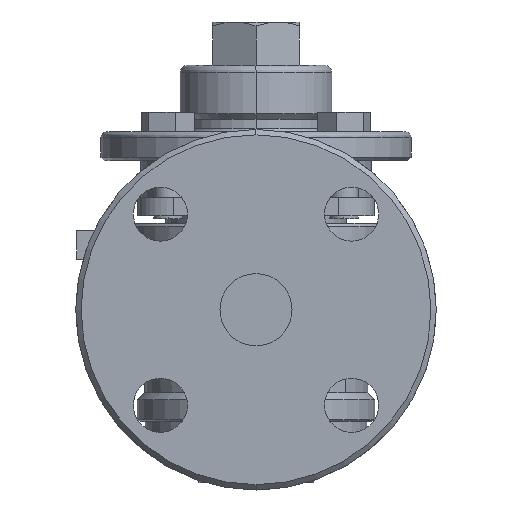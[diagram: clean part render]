
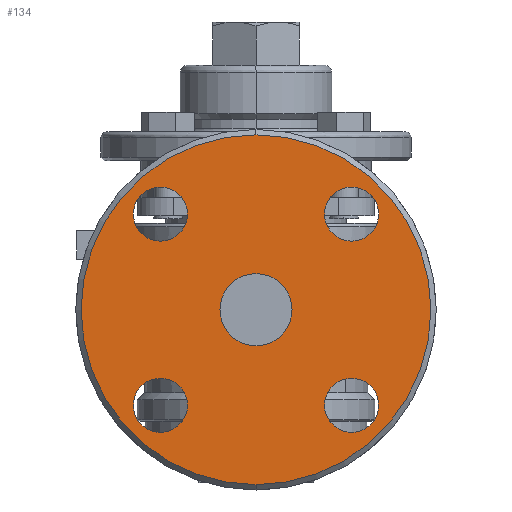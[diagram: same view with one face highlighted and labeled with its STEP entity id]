
A CAD part, left-side view. The second image highlights one B-rep face of the part: STEP entity #134.
In plain terms, the highlighted planar face has unit normal (-1, 0, 0).
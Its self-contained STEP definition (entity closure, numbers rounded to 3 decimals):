
#134=ADVANCED_FACE('',(#1209,#1210,#1211,#1212,#1213,#1214),#1208,.F.);
#1208=PLANE('',#2806);
#1209=FACE_OUTER_BOUND('',#2807,.T.);
#1210=FACE_BOUND('',#2808,.T.);
#1211=FACE_BOUND('',#2809,.T.);
#1212=FACE_BOUND('',#2810,.T.);
#1213=FACE_BOUND('',#2811,.T.);
#1214=FACE_BOUND('',#2812,.T.);
#2803=CARTESIAN_POINT('',(-80.,-94.019,58.508));
#2804=DIRECTION('',(1.,0.,0.));
#2805=DIRECTION('',(0.,0.,-1.));
#2806=AXIS2_PLACEMENT_3D('',#2803,#2804,#2805);
#2807=EDGE_LOOP('',(#4264,#4265));
#2808=EDGE_LOOP('',(#4266,#4267));
#2809=EDGE_LOOP('',(#4268,#4269));
#2810=EDGE_LOOP('',(#4270,#4271));
#2811=EDGE_LOOP('',(#4272,#4273));
#2812=EDGE_LOOP('',(#4274,#4275));
#4264=ORIENTED_EDGE('',*,*,#5091,.T.);
#4265=ORIENTED_EDGE('',*,*,#5092,.T.);
#4266=ORIENTED_EDGE('',*,*,#5093,.T.);
#4267=ORIENTED_EDGE('',*,*,#5094,.T.);
#4268=ORIENTED_EDGE('',*,*,#5095,.T.);
#4269=ORIENTED_EDGE('',*,*,#5096,.T.);
#4270=ORIENTED_EDGE('',*,*,#5097,.T.);
#4271=ORIENTED_EDGE('',*,*,#5098,.T.);
#4272=ORIENTED_EDGE('',*,*,#5099,.F.);
#4273=ORIENTED_EDGE('',*,*,#5100,.F.);
#4274=ORIENTED_EDGE('',*,*,#5101,.T.);
#4275=ORIENTED_EDGE('',*,*,#5102,.T.);
#5091=EDGE_CURVE('',#7511,#7512,#7513,.T.);
#5092=EDGE_CURVE('',#7512,#7511,#7519,.T.);
#5093=EDGE_CURVE('',#7525,#7526,#7527,.T.);
#5094=EDGE_CURVE('',#7526,#7525,#7533,.T.);
#5095=EDGE_CURVE('',#7539,#7540,#7541,.T.);
#5096=EDGE_CURVE('',#7540,#7539,#7547,.T.);
#5097=EDGE_CURVE('',#7553,#7554,#7555,.T.);
#5098=EDGE_CURVE('',#7554,#7553,#7561,.T.);
#5099=EDGE_CURVE('',#7567,#7568,#7569,.T.);
#5100=EDGE_CURVE('',#7568,#7567,#7575,.T.);
#5101=EDGE_CURVE('',#7581,#7582,#7583,.T.);
#5102=EDGE_CURVE('',#7582,#7581,#7589,.T.);
#7511=VERTEX_POINT('',#10048);
#7512=VERTEX_POINT('',#10049);
#7513=CIRCLE('',#10053,48.508);
#7519=CIRCLE('',#10057,48.508);
#7525=VERTEX_POINT('',#10058);
#7526=VERTEX_POINT('',#10059);
#7527=CIRCLE('',#10063,7.5);
#7533=CIRCLE('',#10067,7.5);
#7539=VERTEX_POINT('',#10068);
#7540=VERTEX_POINT('',#10069);
#7541=CIRCLE('',#10073,7.5);
#7547=CIRCLE('',#10077,7.5);
#7553=VERTEX_POINT('',#10078);
#7554=VERTEX_POINT('',#10079);
#7555=CIRCLE('',#10083,7.5);
#7561=CIRCLE('',#10087,7.5);
#7567=VERTEX_POINT('',#10088);
#7568=VERTEX_POINT('',#10089);
#7569=CIRCLE('',#10093,10.);
#7575=CIRCLE('',#10097,10.);
#7581=VERTEX_POINT('',#10098);
#7582=VERTEX_POINT('',#10099);
#7583=CIRCLE('',#10103,7.5);
#7589=CIRCLE('',#10107,7.5);
#10048=CARTESIAN_POINT('',(-80.,0.,48.508));
#10049=CARTESIAN_POINT('',(-80.,0.,-48.508));
#10050=CARTESIAN_POINT('',(-80.,0.,0.));
#10051=DIRECTION('',(-1.,0.,0.));
#10052=DIRECTION('',(0.,0.,1.));
#10053=AXIS2_PLACEMENT_3D('',#10050,#10051,#10052);
#10054=CARTESIAN_POINT('',(-80.,0.,0.));
#10055=DIRECTION('',(-1.,0.,0.));
#10056=DIRECTION('',(0.,0.,1.));
#10057=AXIS2_PLACEMENT_3D('',#10054,#10055,#10056);
#10058=CARTESIAN_POINT('',(-80.,26.516,34.017));
#10059=CARTESIAN_POINT('',(-80.,26.516,19.017));
#10060=CARTESIAN_POINT('',(-80.,26.516,26.517));
#10061=DIRECTION('',(1.,0.,0.));
#10062=DIRECTION('',(0.,0.,1.));
#10063=AXIS2_PLACEMENT_3D('',#10060,#10061,#10062);
#10064=CARTESIAN_POINT('',(-80.,26.516,26.517));
#10065=DIRECTION('',(1.,0.,0.));
#10066=DIRECTION('',(0.,0.,1.));
#10067=AXIS2_PLACEMENT_3D('',#10064,#10065,#10066);
#10068=CARTESIAN_POINT('',(-80.,26.516,-19.017));
#10069=CARTESIAN_POINT('',(-80.,26.516,-34.017));
#10070=CARTESIAN_POINT('',(-80.,26.516,-26.517));
#10071=DIRECTION('',(1.,0.,0.));
#10072=DIRECTION('',(0.,0.,1.));
#10073=AXIS2_PLACEMENT_3D('',#10070,#10071,#10072);
#10074=CARTESIAN_POINT('',(-80.,26.516,-26.517));
#10075=DIRECTION('',(1.,0.,0.));
#10076=DIRECTION('',(0.,0.,1.));
#10077=AXIS2_PLACEMENT_3D('',#10074,#10075,#10076);
#10078=CARTESIAN_POINT('',(-80.,-26.517,-19.016));
#10079=CARTESIAN_POINT('',(-80.,-26.517,-34.016));
#10080=CARTESIAN_POINT('',(-80.,-26.517,-26.516));
#10081=DIRECTION('',(1.,0.,0.));
#10082=DIRECTION('',(0.,0.,1.));
#10083=AXIS2_PLACEMENT_3D('',#10080,#10081,#10082);
#10084=CARTESIAN_POINT('',(-80.,-26.517,-26.516));
#10085=DIRECTION('',(1.,0.,0.));
#10086=DIRECTION('',(0.,0.,1.));
#10087=AXIS2_PLACEMENT_3D('',#10084,#10085,#10086);
#10088=CARTESIAN_POINT('',(-80.,0.,-10.));
#10089=CARTESIAN_POINT('',(-80.,0.,10.));
#10090=CARTESIAN_POINT('',(-80.,0.,0.));
#10091=DIRECTION('',(-1.,0.,0.));
#10092=DIRECTION('',(0.,0.,1.));
#10093=AXIS2_PLACEMENT_3D('',#10090,#10091,#10092);
#10094=CARTESIAN_POINT('',(-80.,0.,0.));
#10095=DIRECTION('',(-1.,0.,0.));
#10096=DIRECTION('',(0.,0.,1.));
#10097=AXIS2_PLACEMENT_3D('',#10094,#10095,#10096);
#10098=CARTESIAN_POINT('',(-80.,-26.517,34.016));
#10099=CARTESIAN_POINT('',(-80.,-26.517,19.016));
#10100=CARTESIAN_POINT('',(-80.,-26.517,26.516));
#10101=DIRECTION('',(1.,0.,0.));
#10102=DIRECTION('',(0.,0.,1.));
#10103=AXIS2_PLACEMENT_3D('',#10100,#10101,#10102);
#10104=CARTESIAN_POINT('',(-80.,-26.517,26.516));
#10105=DIRECTION('',(1.,0.,0.));
#10106=DIRECTION('',(0.,0.,1.));
#10107=AXIS2_PLACEMENT_3D('',#10104,#10105,#10106);
